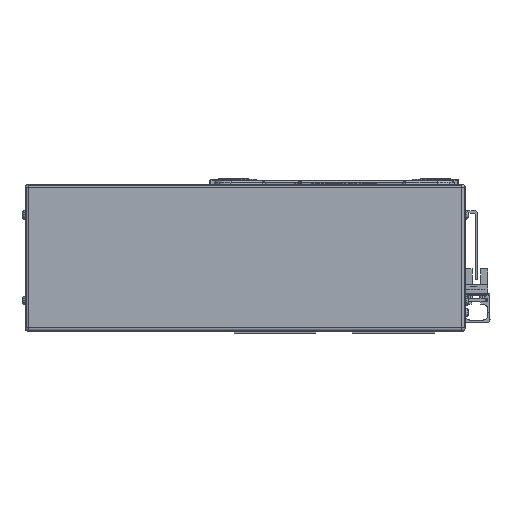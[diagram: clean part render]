
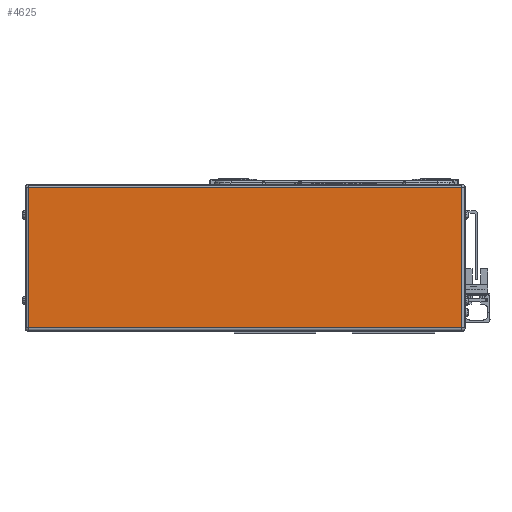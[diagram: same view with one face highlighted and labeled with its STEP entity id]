
A CAD part, left-side view. The second image highlights one B-rep face of the part: STEP entity #4625.
In plain terms, the highlighted planar face has unit normal (-1, 0, 0).
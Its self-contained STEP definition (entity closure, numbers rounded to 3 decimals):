
#4625=ADVANCED_FACE('',(#11112),#11113,.F.);
#11112=FACE_OUTER_BOUND('',#20256,.T.);
#11113=PLANE('',#20257);
#20256=EDGE_LOOP('',(#33939,#33940,#33941,#33942));
#20257=AXIS2_PLACEMENT_3D('',#33943,#33944,#33945);
#33939=ORIENTED_EDGE('',*,*,#56232,.T.);
#33940=ORIENTED_EDGE('',*,*,#56233,.T.);
#33941=ORIENTED_EDGE('',*,*,#56234,.T.);
#33942=ORIENTED_EDGE('',*,*,#56235,.T.);
#33943=CARTESIAN_POINT('',(-45.,180.5,0.));
#33944=DIRECTION('',(1.0,0.,0.));
#33945=DIRECTION('',(0.,0.,1.0));
#56232=EDGE_CURVE('',#68489,#68490,#68491,.T.);
#56233=EDGE_CURVE('',#68490,#68492,#68493,.T.);
#56234=EDGE_CURVE('',#68492,#68494,#68495,.T.);
#56235=EDGE_CURVE('',#68494,#68489,#68496,.T.);
#68489=VERTEX_POINT('',#85525);
#68490=VERTEX_POINT('',#85526);
#68491=LINE('',#85527,#85528);
#68492=VERTEX_POINT('',#85529);
#68493=LINE('',#85530,#85531);
#68494=VERTEX_POINT('',#85532);
#68495=LINE('',#85533,#85534);
#68496=LINE('',#85535,#85536);
#85525=CARTESIAN_POINT('',(-45.,178.5,41.));
#85526=CARTESIAN_POINT('',(-45.,178.5,-41.));
#85527=CARTESIAN_POINT('',(-45.,178.5,0.));
#85528=VECTOR('',#101734,10.0);
#85529=CARTESIAN_POINT('',(-45.,-74.5,-41.));
#85530=CARTESIAN_POINT('',(-45.,180.5,-41.));
#85531=VECTOR('',#101735,10.0);
#85532=CARTESIAN_POINT('',(-45.,-74.5,41.));
#85533=CARTESIAN_POINT('',(-45.,-74.5,0.));
#85534=VECTOR('',#101736,10.0);
#85535=CARTESIAN_POINT('',(-45.,180.5,41.));
#85536=VECTOR('',#101737,10.0);
#101734=DIRECTION('',(0.,0.,-1.0));
#101735=DIRECTION('',(0.,-1.0,0.));
#101736=DIRECTION('',(0.,0.,1.0));
#101737=DIRECTION('',(0.,1.0,0.));
